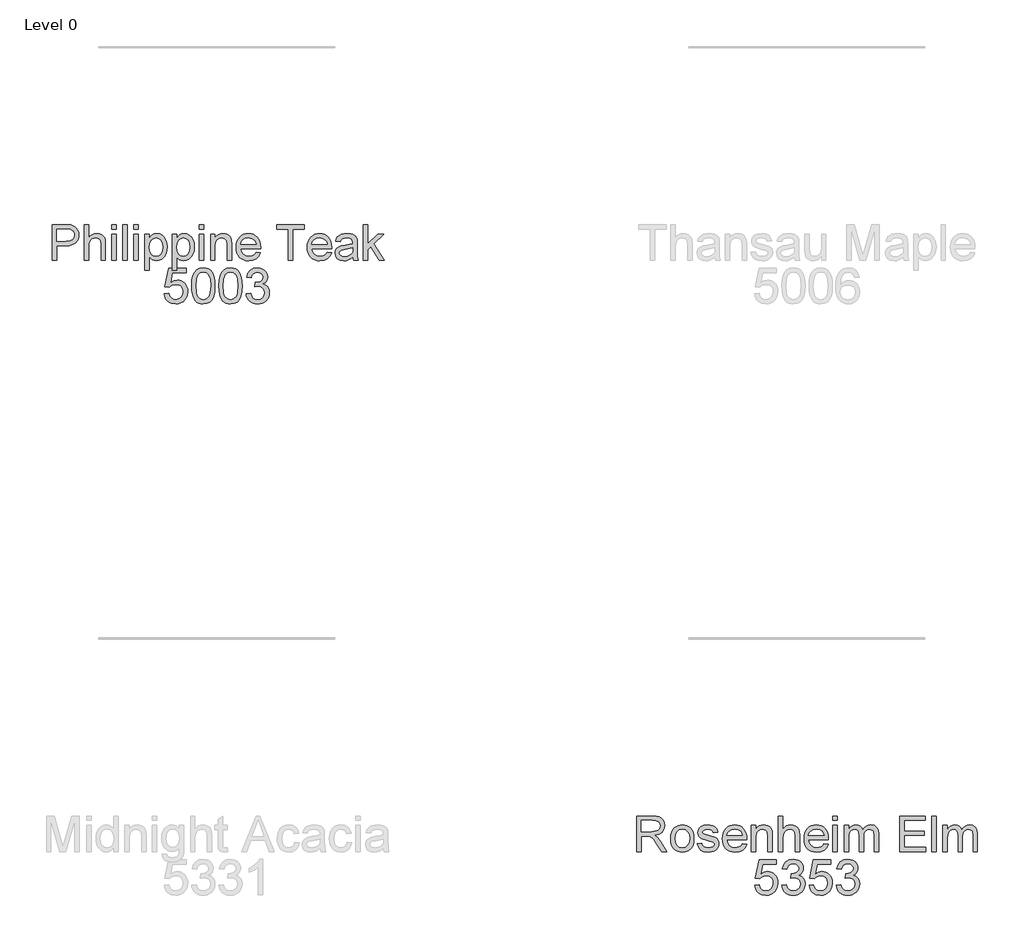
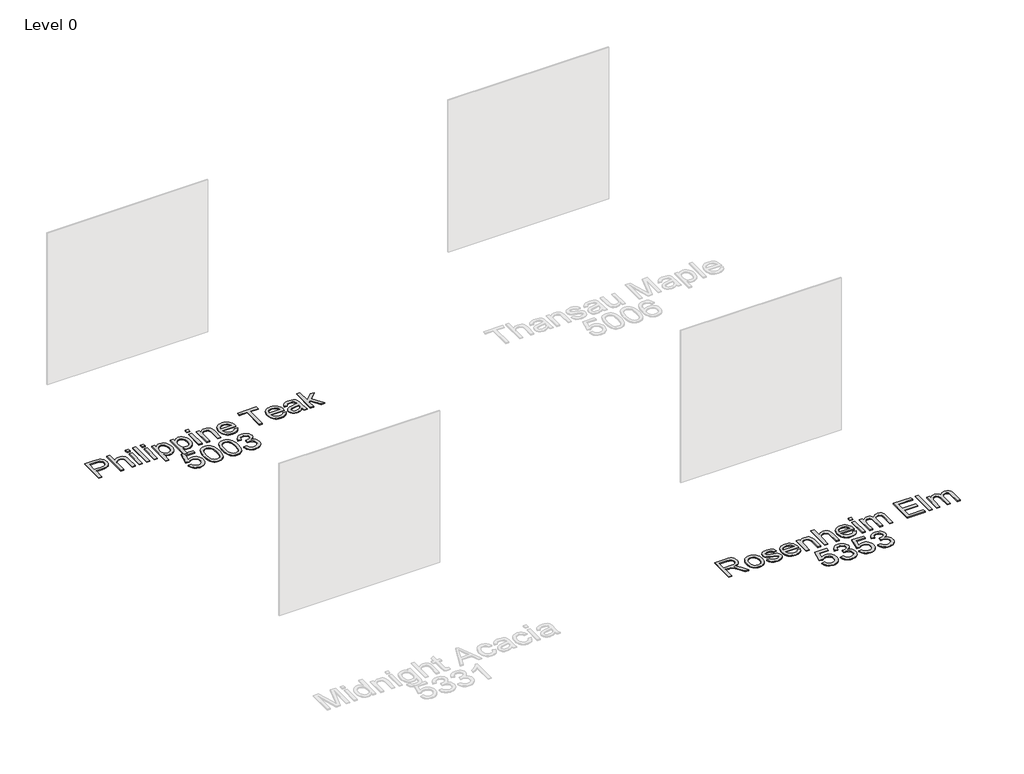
# One storey, part 3 of 16: 2 proxies.
"""IFC4 building model written with IfcOpenShell, lengths in millimetres."""

from ifc_helpers import new_model, si_unit, origin, origin_with_axes, place, context, project, spatial, polyline, outline, extrude, element, save

model = new_model("IFC4")

# Units and contexts
model_context = context("Model", 3, world=origin())
ifc_project = project(units=[si_unit("LENGTHUNIT", "METRE", prefix="MILLI")], contexts=[model_context])

# Site, building, storey
site = spatial("IfcSite", under=ifc_project)
building = spatial("IfcBuilding", under=site)
storey = spatial("IfcBuildingStorey", under=building, Name="Level 0", Elevation=0.0)

# Proxies
placement = place(None, origin())
element("IfcBuildingElementProxy", 1, Name="300mm Arial", ObjectType="300mm Arial", at=placement, inside=storey, context=model_context, shape_type="SweptSolid", body=[
    extrude(outline(polyline([(-10844.4893596, -22012.860494), (-10844.4893596, -21711.4915635), (-10732.8003859, -21711.4915635), (-10687.7716297, -21714.3610431), (-10667.6944698, -21719.7229232), (-10651.1673712, -21728.4509235), (-10637.85924, -21740.9405172), (-10627.4389825, -21757.5871775), (-10620.706742, -21777.222879), (-10618.4626618, -21798.6795964), (-10619.9778758, -21817.1794622), (-10624.5235177, -21834.198603), (-10632.0995875, -21849.7370188), (-10642.7060853, -21863.7947095), (-10657.2673145, -21875.4473717), (-10676.7075787, -21883.7707019), (-10701.0268778, -21888.7647), (-10730.2252119, -21890.429366), (-10806.8182433, -21890.429366), (-10806.8182433, -22012.860494), (-10844.4893596, -22012.860494)]), holes=[polyline([(-10806.8182433, -21852.7582497), (-10728.01792, -21852.7582497), (-10694.6142348, -21849.3001589), (-10672.5413151, -21838.9258867), (-10660.2356623, -21822.2792264), (-10656.1337781, -21800.0039716), (-10658.5526022, -21783.0813998), (-10665.8090746, -21768.8075784), (-10677.0018843, -21758.0654241), (-10691.2297204, -21751.7378538), (-10728.9008367, -21749.1626798), (-10806.8182433, -21749.1626798), (-10806.8182433, -21852.7582497)])]), origin_with_axes(), (0.0, 0.0, 1.0), 10.0),
    extrude(outline(polyline([(-10571.3737664, -22012.860494), (-10571.3737664, -21711.4915635), (-10533.7026501, -21711.4915635), (-10533.7026501, -21822.2976205), (-10519.8656886, -21806.7821973), (-10504.3272728, -21795.6997522), (-10487.0874028, -21789.0502852), (-10468.1460786, -21786.8337961), (-10445.3925772, -21789.2526203), (-10425.8396491, -21796.5090926), (-10410.4437876, -21808.0329961), (-10400.1614859, -21823.2541137), (-10394.3673444, -21844.1682051), (-10392.435964, -21872.7710302), (-10392.435964, -22012.860494), (-10430.1070803, -22012.860494), (-10430.1070803, -21876.6705794), (-10433.1053185, -21853.0893435), (-10442.1000333, -21836.9393239), (-10456.5945839, -21827.6135153), (-10476.0923297, -21824.5049125), (-10492.012423, -21826.6018398), (-10506.9576291, -21832.8926219), (-10519.3368582, -21842.7702535), (-10527.5590208, -21855.6277292), (-10532.1667428, -21872.7158479), (-10533.7026501, -21895.2854083), (-10533.7026501, -22012.860494), (-10571.3737664, -22012.860494)])), origin_with_axes(), (0.0, 0.0, 1.0), 10.0),
    extrude(outline(polyline([(-10340.638179, -21749.1626798), (-10340.638179, -21711.4915635), (-10302.9670627, -21711.4915635), (-10302.9670627, -21749.1626798), (-10340.638179, -21749.1626798)])), origin_with_axes(), (0.0, 0.0, 1.0), 10.0),
    extrude(outline(polyline([(-10340.638179, -22012.860494), (-10340.638179, -21791.5426857), (-10302.9670627, -21791.5426857), (-10302.9670627, -22012.860494), (-10340.638179, -22012.860494)])), origin_with_axes(), (0.0, 0.0, 1.0), 10.0),
    extrude(outline(polyline([(-10246.4603883, -22012.860494), (-10246.4603883, -21711.4915635), (-10208.789272, -21711.4915635), (-10208.789272, -22012.860494), (-10246.4603883, -22012.860494)])), origin_with_axes(), (0.0, 0.0, 1.0), 10.0),
    extrude(outline(polyline([(-10152.2825975, -21749.1626798), (-10152.2825975, -21711.4915635), (-10114.6114812, -21711.4915635), (-10114.6114812, -21749.1626798), (-10152.2825975, -21749.1626798)])), origin_with_axes(), (0.0, 0.0, 1.0), 10.0),
    extrude(outline(polyline([(-10152.2825975, -22012.860494), (-10152.2825975, -21791.5426857), (-10114.6114812, -21791.5426857), (-10114.6114812, -22012.860494), (-10152.2825975, -22012.860494)])), origin_with_axes(), (0.0, 0.0, 1.0), 10.0),
    extrude(outline(polyline([(-10058.1048067, -22097.6205057), (-10058.1048067, -21791.5426857), (-10020.4336904, -21791.5426857), (-10020.4336904, -21828.478038), (-10008.1464318, -21810.2586822), (-9994.3876452, -21797.2448566), (-9978.3479902, -21789.4365613), (-9959.2181264, -21786.8337961), (-9933.7422983, -21790.4758279), (-9911.4670435, -21801.4019232), (-9893.3304611, -21818.9498943), (-9880.2706503, -21842.4575538), (-9872.3795815, -21870.2142504), (-9869.7492252, -21900.5093327), (-9872.7198723, -21932.7265984), (-9881.6318137, -21961.5409557), (-9896.1999407, -21985.4900735), (-9916.1391448, -22003.1116211), (-9939.3616958, -22013.9549429), (-9963.7798632, -22017.5693835), (-9981.0979081, -22015.1505594), (-9996.558149, -22007.894087), (-10009.7927037, -21996.9404006), (-10020.4336904, -21983.4299344), (-10020.4336904, -22097.6205057), (-10058.1048067, -22097.6205057)]), holes=[polyline([(-10020.4336904, -21903.9674234), (-10016.3593973, -21937.7389906), (-10004.1365181, -21961.3570147), (-9986.1011032, -21975.2629541), (-9964.5892036, -21979.8982672), (-9942.727816, -21975.0974072), (-9924.2325487, -21960.6948271), (-9911.6233933, -21936.2122803), (-9907.4203415, -21901.1715202), (-9911.5222258, -21867.5838941), (-9923.8278785, -21843.6347762), (-9941.8357022, -21829.2873784), (-9963.0440992, -21824.5049125), (-9984.3352697, -21829.590881), (-10003.0328721, -21844.8487868), (-10016.0834858, -21869.8003831), (-10020.4336904, -21903.9674234)])]), origin_with_axes(), (0.0, 0.0, 1.0), 10.0),
    extrude(outline(polyline([(-9827.3692194, -22097.6205057), (-9827.3692194, -21791.5426857), (-9789.6981031, -21791.5426857), (-9789.6981031, -21828.478038), (-9777.4108444, -21810.2586822), (-9763.6520578, -21797.2448566), (-9747.6124028, -21789.4365613), (-9728.4825391, -21786.8337961), (-9703.0067109, -21790.4758279), (-9680.7314561, -21801.4019232), (-9662.5948737, -21818.9498943), (-9649.5350629, -21842.4575538), (-9641.6439941, -21870.2142504), (-9639.0136378, -21900.5093327), (-9641.9842849, -21932.7265984), (-9650.8962263, -21961.5409557), (-9665.4643533, -21985.4900735), (-9685.4035574, -22003.1116211), (-9708.6261084, -22013.9549429), (-9733.0442758, -22017.5693835), (-9750.3623207, -22015.1505594), (-9765.8225616, -22007.894087), (-9779.0571164, -21996.9404006), (-9789.6981031, -21983.4299344), (-9789.6981031, -22097.6205057), (-9827.3692194, -22097.6205057)]), holes=[polyline([(-9789.6981031, -21903.9674234), (-9785.62381, -21937.7389906), (-9773.4009307, -21961.3570147), (-9755.3655159, -21975.2629541), (-9733.8536162, -21979.8982672), (-9711.9922286, -21975.0974072), (-9693.4969613, -21960.6948271), (-9680.8878059, -21936.2122803), (-9676.6847541, -21901.1715202), (-9680.7866384, -21867.5838941), (-9693.0922911, -21843.6347762), (-9711.1001148, -21829.2873784), (-9732.3085118, -21824.5049125), (-9753.5996823, -21829.590881), (-9772.2972847, -21844.8487868), (-9785.3478985, -21869.8003831), (-9789.6981031, -21903.9674234)])]), origin_with_axes(), (0.0, 0.0, 1.0), 10.0),
    extrude(outline(polyline([(-9596.633632, -21749.1626798), (-9596.633632, -21711.4915635), (-9558.9625157, -21711.4915635), (-9558.9625157, -21749.1626798), (-9596.633632, -21749.1626798)])), origin_with_axes(), (0.0, 0.0, 1.0), 10.0),
    extrude(outline(polyline([(-9596.633632, -22012.860494), (-9596.633632, -21791.5426857), (-9558.9625157, -21791.5426857), (-9558.9625157, -22012.860494), (-9596.633632, -22012.860494)])), origin_with_axes(), (0.0, 0.0, 1.0), 10.0),
    extrude(outline(polyline([(-9502.4558412, -22012.860494), (-9502.4558412, -21791.5426857), (-9464.7847249, -21791.5426857), (-9464.7847249, -21822.4447733), (-9451.6973229, -21806.8649708), (-9435.9795647, -21795.7365404), (-9417.6314502, -21789.0594822), (-9396.6529794, -21786.8337961), (-9378.0841357, -21788.6272209), (-9361.0787905, -21794.0074951), (-9346.8969396, -21802.303234), (-9336.7985788, -21812.8430532), (-9325.5046015, -21840.5445674), (-9323.5180388, -21876.964885), (-9323.5180388, -22012.860494), (-9361.1891551, -22012.860494), (-9361.1891551, -21882.0416565), (-9365.5301626, -21848.7115477), (-9371.5358362, -21838.7879309), (-9380.8708418, -21831.0900002), (-9392.8362037, -21826.1511844), (-9406.7329461, -21824.5049125), (-9428.7966687, -21828.2021265), (-9447.6046357, -21839.2937687), (-9455.1209248, -21848.3482643), (-9460.4897026, -21860.7228949), (-9464.7847249, -21895.4325611), (-9464.7847249, -22012.860494), (-9502.4558412, -22012.860494)])), origin_with_axes(), (0.0, 0.0, 1.0), 10.0),
    extrude(outline(polyline([(-9116.7683575, -21946.9360404), (-9079.8330052, -21951.64493), (-9093.1411363, -21979.4752029), (-9114.3771245, -22000.2789297), (-9143.0627231, -22013.2467701), (-9178.7196855, -22017.5693835), (-9202.0939877, -22015.7046817), (-9222.9207072, -22010.1105761), (-9241.1998438, -22000.7870668), (-9256.9313976, -21987.7341537), (-9269.5819398, -21971.3151204), (-9278.6180413, -21951.8932503), (-9284.0397022, -21929.4685435), (-9285.8469225, -21904.0409998), (-9284.0213081, -21877.7512327), (-9278.5444649, -21854.5792656), (-9269.4163929, -21834.5250983), (-9256.6370921, -21817.5887309), (-9240.946925, -21804.133447), (-9223.0862541, -21794.5225298), (-9203.0550795, -21788.7559796), (-9180.853401, -21786.8337961), (-9159.3667933, -21788.751381), (-9139.9357261, -21794.5041357), (-9122.5601996, -21804.0920602), (-9107.2402138, -21817.5151545), (-9094.7345252, -21834.4147337), (-9085.8018905, -21854.4321128), (-9080.4423097, -21877.5672917), (-9078.6557828, -21903.8202706), (-9078.876512, -21913.9738137), (-9248.1758062, -21913.9738137), (-9241.6550978, -21942.1719686), (-9226.5075566, -21962.902119), (-9204.6461691, -21975.6492302), (-9177.9839215, -21979.8982672), (-9157.9343527, -21977.9300985), (-9141.0485692, -21972.0255925), (-9127.3265707, -21961.8168672), (-9116.7683575, -21946.9360404)]), holes=[polyline([(-9248.1758062, -21876.3026974), (-9116.3268991, -21876.3026974), (-9121.4220647, -21856.4002814), (-9131.4100609, -21842.1632482), (-9153.372616, -21828.9194964), (-9181.0005538, -21824.5049125), (-9206.3936086, -21828.0273826), (-9227.3904734, -21838.5947929), (-9241.9861916, -21855.0667092), (-9248.1758062, -21876.3026974)])]), origin_with_axes(), (0.0, 0.0, 1.0), 10.0),
    extrude(outline(polyline([(-8843.2113059, -22012.860494), (-8843.2113059, -21749.1626798), (-8942.0979862, -21749.1626798), (-8942.0979862, -21711.4915635), (-8706.6535093, -21711.4915635), (-8706.6535093, -21749.1626798), (-8805.5401896, -21749.1626798), (-8805.5401896, -22012.860494), (-8843.2113059, -22012.860494)])), origin_with_axes(), (0.0, 0.0, 1.0), 10.0),
    extrude(outline(polyline([(-8514.0304966, -21946.9360404), (-8477.0951443, -21951.64493), (-8490.4032754, -21979.4752029), (-8511.6392636, -22000.2789297), (-8540.3248622, -22013.2467701), (-8575.9818246, -22017.5693835), (-8599.3561268, -22015.7046817), (-8620.1828463, -22010.1105761), (-8638.4619829, -22000.7870668), (-8654.1935367, -21987.7341537), (-8666.8440789, -21971.3151204), (-8675.8801804, -21951.8932503), (-8681.3018413, -21929.4685435), (-8683.1090616, -21904.0409998), (-8681.2834472, -21877.7512327), (-8675.806604, -21854.5792656), (-8666.678532, -21834.5250983), (-8653.8992312, -21817.5887309), (-8638.2090641, -21804.133447), (-8620.3483932, -21794.5225298), (-8600.3172186, -21788.7559796), (-8578.1155401, -21786.8337961), (-8556.6289324, -21788.751381), (-8537.1978652, -21794.5041357), (-8519.8223387, -21804.0920602), (-8504.5023529, -21817.5151545), (-8491.9966643, -21834.4147337), (-8483.0640296, -21854.4321128), (-8477.7044488, -21877.5672917), (-8475.9179219, -21903.8202706), (-8476.1386511, -21913.9738137), (-8645.4379453, -21913.9738137), (-8638.9172369, -21942.1719686), (-8623.7696957, -21962.902119), (-8601.9083082, -21975.6492302), (-8575.2460606, -21979.8982672), (-8555.1964918, -21977.9300985), (-8538.3107083, -21972.0255925), (-8524.5887098, -21961.8168672), (-8514.0304966, -21946.9360404)]), holes=[polyline([(-8645.4379453, -21876.3026974), (-8513.5890382, -21876.3026974), (-8518.6842038, -21856.4002814), (-8528.6722, -21842.1632482), (-8550.6347551, -21828.9194964), (-8578.2626929, -21824.5049125), (-8603.6557477, -21828.0273826), (-8624.6526125, -21838.5947929), (-8639.2483307, -21855.0667092), (-8645.4379453, -21876.3026974)])]), origin_with_axes(), (0.0, 0.0, 1.0), 10.0),
    extrude(outline(polyline([(-8296.9801194, -21984.6071568), (-8314.978746, -22000.0398064), (-8333.5108016, -22010.1381672), (-8352.9993502, -22015.7115794), (-8373.8674564, -22017.5693835), (-8405.3489582, -22013.0996173), (-8428.5715091, -21999.6903186), (-8442.8913158, -21979.3280501), (-8447.6645847, -21953.9993748), (-8445.8619629, -21938.3827841), (-8440.4540976, -21924.2009331), (-8432.1123733, -21912.0608273), (-8421.5081748, -21902.5694718), (-8395.1310357, -21890.2086368), (-8362.536691, -21884.5432541), (-8324.0194461, -21878.5835657), (-8297.2008486, -21871.5938078), (-8296.9801194, -21863.2060983), (-8299.5736875, -21846.3938912), (-8307.3543917, -21835.3942195), (-8324.7552101, -21827.2272392), (-8348.9986336, -21824.5049125), (-8371.4394353, -21826.3167313), (-8387.1112083, -21831.7521878), (-8397.7981802, -21841.8045633), (-8405.2845788, -21857.4671392), (-8442.9556951, -21852.7582497), (-8436.4165927, -21832.156858), (-8426.6585227, -21815.9700502), (-8412.7709774, -21803.590821), (-8393.8434488, -21794.4121652), (-8370.6944742, -21788.7283884), (-8344.1425912, -21786.8337961), (-8318.6759601, -21788.5076592), (-8298.4884356, -21793.5292485), (-8283.2673181, -21801.0800264), (-8272.6999078, -21810.3414556), (-8265.6917557, -21821.7917827), (-8261.1484131, -21835.9092543), (-8259.3090031, -21868.8714811), (-8259.3090031, -21915.7396473), (-8257.3960168, -21981.1858542), (-8249.8912241, -22012.860494), (-8287.5623404, -22012.860494), (-8296.9801194, -21984.6071568)]), holes=[polyline([(-8296.9801194, -21909.2649241), (-8357.754225, -21920.8164188), (-8390.1646288, -21926.9232599), (-8404.8431204, -21936.8560738), (-8409.9934684, -21951.3506244), (-8407.1883681, -21962.5526311), (-8398.7730675, -21971.7312869), (-8384.9315074, -21977.8565221), (-8365.8476289, -21979.8982672), (-8345.6141192, -21977.64499), (-8327.7350542, -21970.8851583), (-8313.2405036, -21960.9247533), (-8303.160537, -21949.069756), (-8298.6907707, -21936.8560738), (-8297.2008486, -21919.933502), (-8296.9801194, -21909.2649241)])]), origin_with_axes(), (0.0, 0.0, 1.0), 10.0),
    extrude(outline(polyline([(-8207.5112182, -22012.860494), (-8207.5112182, -21711.4915635), (-8169.8401019, -21711.4915635), (-8169.8401019, -21873.4332178), (-8085.3743958, -21791.5426857), (-8033.2823053, -21791.5426857), (-8118.778081, -21874.4632874), (-8028.5734158, -22012.860494), (-8072.5721024, -22012.860494), (-8145.7806194, -21900.6564855), (-8169.8401019, -21923.9802039), (-8169.8401019, -22012.860494), (-8207.5112182, -22012.860494)])), origin_with_axes(), (0.0, 0.0, 1.0), 10.0),
    extrude(outline(polyline([(-9893.2936729, -22298.7338254), (-9855.6225566, -22294.0249358), (-9848.7063751, -22316.6404815), (-9836.6398456, -22332.8364863), (-9819.4781506, -22342.5761621), (-9797.2764722, -22345.8227207), (-9770.2739337, -22341.3069693), (-9750.040424, -22327.7597148), (-9737.4036774, -22306.7444558), (-9733.1914286, -22279.8246908), (-9737.136963, -22254.4776213), (-9748.9735662, -22235.0902402), (-9768.7932087, -22222.7845875), (-9796.687861, -22218.6827032), (-9814.9623991, -22220.3197781), (-9829.7604523, -22225.2310027), (-9850.9136671, -22242.2271509), (-9888.5847834, -22237.5182614), (-9855.6225566, -22082.1249066), (-9709.6469809, -22082.1249066), (-9709.6469809, -22119.7960229), (-9825.1619274, -22119.7960229), (-9841.2751588, -22202.790201), (-9814.3645908, -22186.4562404), (-9786.1664359, -22181.0115869), (-9767.8206207, -22182.6992456), (-9750.969326, -22187.7622215), (-9735.612552, -22196.2005148), (-9721.7502986, -22208.0141254), (-9710.2746796, -22222.4810848), (-9702.0778089, -22238.8794248), (-9697.1596864, -22257.2091452), (-9695.5203123, -22277.470246), (-9701.4248183, -22315.1413624), (-9708.8054508, -22331.9351754), (-9719.1383364, -22347.3678251), (-9734.7917153, -22363.1729553), (-9753.0570563, -22374.4623341), (-9773.9343596, -22381.2359613), (-9797.423625, -22383.4938371), (-9834.4233566, -22377.6904986), (-9850.1020274, -22370.4363255), (-9863.8999015, -22360.2804832), (-9875.380119, -22347.7288093), (-9884.1058201, -22333.2871418), (-9893.2936729, -22298.7338254)])), origin_with_axes(), (0.0, 0.0, 1.0), 10.0),
    extrude(outline(polyline([(-9662.5580855, -22230.5285035), (-9659.7897735, -22182.2899768), (-9651.4848375, -22143.8187172), (-9637.7260509, -22114.5261133), (-9618.5961871, -22093.8235541), (-9593.9572905, -22081.5179013), (-9563.6714052, -22077.4160171), (-9540.4580513, -22079.8440382), (-9519.6727186, -22087.1281017), (-9502.2902943, -22098.983099), (-9489.2856658, -22115.1239216), (-9479.4632165, -22135.4126136), (-9471.62733, -22159.7112194), (-9466.4953762, -22190.5673217), (-9464.7847249, -22230.5285035), (-9467.5254458, -22278.4911186), (-9475.7476084, -22316.8704077), (-9489.4236215, -22346.1906027), (-9508.5258941, -22366.9759355), (-9533.2199731, -22379.3643617), (-9563.6714052, -22383.4938371), (-9584.4199498, -22381.7004123), (-9602.8140495, -22376.3201381), (-9618.8537045, -22367.3530145), (-9632.5389147, -22354.7990414), (-9645.672302, -22332.1053209), (-9655.0532928, -22303.828991), (-9660.6818874, -22269.9700519), (-9662.5580855, -22230.5285035)]), holes=[polyline([(-9624.8869692, -22230.4549271), (-9620.4723853, -22289.7115194), (-9614.9541554, -22309.9795181), (-9607.2286335, -22324.0073184), (-9587.5101585, -22340.3688702), (-9563.6714052, -22345.8227207), (-9539.8326519, -22340.3504761), (-9520.114177, -22323.933742), (-9512.3886551, -22309.8829491), (-9506.8704252, -22289.6195489), (-9502.4558412, -22230.4549271), (-9506.7232724, -22172.5319069), (-9512.0575613, -22152.3305869), (-9519.5255658, -22137.9693935), (-9539.2072525, -22120.8076984), (-9564.1128636, -22115.0871334), (-9587.6940995, -22120.1271167), (-9606.6400223, -22135.2470667), (-9614.6230616, -22150.8820515), (-9620.3252325, -22171.9616898), (-9624.8869692, -22230.4549271)])]), origin_with_axes(), (0.0, 0.0, 1.0), 10.0),
    extrude(outline(polyline([(-9431.8224982, -22230.5285035), (-9429.0541861, -22182.2899768), (-9420.7492501, -22143.8187172), (-9406.9904635, -22114.5261133), (-9387.8605997, -22093.8235541), (-9363.2217031, -22081.5179013), (-9332.9358179, -22077.4160171), (-9309.722464, -22079.8440382), (-9288.9371312, -22087.1281017), (-9271.554707, -22098.983099), (-9258.5500784, -22115.1239216), (-9248.7276292, -22135.4126136), (-9240.8917427, -22159.7112194), (-9235.7597888, -22190.5673217), (-9234.0491375, -22230.5285035), (-9236.7898584, -22278.4911186), (-9245.012021, -22316.8704077), (-9258.6880342, -22346.1906027), (-9277.7903068, -22366.9759355), (-9302.4843857, -22379.3643617), (-9332.9358179, -22383.4938371), (-9353.6843624, -22381.7004123), (-9372.0784621, -22376.3201381), (-9388.1181171, -22367.3530145), (-9401.8033273, -22354.7990414), (-9414.9367146, -22332.1053209), (-9424.3177055, -22303.828991), (-9429.9463, -22269.9700519), (-9431.8224982, -22230.5285035)]), holes=[polyline([(-9394.1513818, -22230.4549271), (-9389.7367979, -22289.7115194), (-9384.218568, -22309.9795181), (-9376.4930461, -22324.0073184), (-9356.7745711, -22340.3688702), (-9332.9358179, -22345.8227207), (-9309.0970646, -22340.3504761), (-9289.3785896, -22323.933742), (-9281.6530677, -22309.8829491), (-9276.1348378, -22289.6195489), (-9271.7202539, -22230.4549271), (-9275.987685, -22172.5319069), (-9281.3219739, -22152.3305869), (-9288.7899784, -22137.9693935), (-9308.4716652, -22120.8076984), (-9333.3772762, -22115.0871334), (-9356.9585121, -22120.1271167), (-9375.9044349, -22135.2470667), (-9383.8874742, -22150.8820515), (-9389.5896451, -22171.9616898), (-9394.1513818, -22230.4549271)])]), origin_with_axes(), (0.0, 0.0, 1.0), 10.0),
    extrude(outline(polyline([(-9201.0869108, -22298.7338254), (-9163.4157945, -22294.0249358), (-9154.9820997, -22317.6981422), (-9142.6304617, -22333.6826149), (-9125.7538752, -22342.7876943), (-9103.7453349, -22345.8227207), (-9077.9200188, -22341.6472601), (-9057.9808147, -22329.1208782), (-9045.2337035, -22310.4324728), (-9040.9846665, -22287.7709419), (-9045.1969153, -22266.2590422), (-9057.8336619, -22248.8122386), (-9076.9635256, -22237.2515469), (-9100.6551261, -22233.397983), (-9127.0690533, -22237.5182614), (-9122.8751986, -22199.8471451), (-9116.8419339, -22200.2886035), (-9094.2723735, -22197.5846708), (-9074.094046, -22189.4728728), (-9059.8570128, -22175.7508744), (-9055.1113351, -22156.2163404), (-9058.5510317, -22139.9467592), (-9068.8701217, -22126.7489926), (-9084.6154711, -22118.0025982), (-9104.333946, -22115.0871334), (-9124.0892092, -22118.0301893), (-9140.2392288, -22126.8593572), (-9152.0298467, -22141.574637), (-9158.7069049, -22162.1760288), (-9196.3780212, -22157.4671392), (-9185.2863791, -22123.6403898), (-9165.54951, -22098.3852908), (-9138.5469716, -22082.6583355), (-9105.6583212, -22077.4160171), (-9081.9759178, -22080.0003881), (-9060.2248948, -22087.7535011), (-9041.8859774, -22099.9855775), (-9028.4398904, -22116.0068384), (-9020.1901367, -22134.4653175), (-9017.4402188, -22154.0090485), (-9020.052181, -22172.2192072), (-9027.8880675, -22188.7371088), (-9040.8375137, -22202.8085951), (-9058.790155, -22213.6795081), (-9035.2089192, -22223.2076518), (-9017.7345244, -22239.4312477), (-9006.9187937, -22261.4673793), (-9003.3135502, -22288.4331295), (-9005.1161719, -22307.5445992), (-9010.5240373, -22325.1477526), (-9019.5371462, -22341.2425899), (-9032.1554986, -22355.829111), (-9047.5283675, -22367.9324287), (-9064.8050257, -22376.5776555), (-9083.9854732, -22381.7647917), (-9105.06971, -22383.4938371), (-9124.1259974, -22382.0177105), (-9141.4900276, -22377.589331), (-9157.1618006, -22370.2086985), (-9171.1413164, -22359.875813), (-9182.8629564, -22347.1976797), (-9191.7611022, -22332.781304), (-9197.8357536, -22316.6266859), (-9201.0869108, -22298.7338254)])), origin_with_axes(), (0.0, 0.0, 1.0), 10.0),
])
element("IfcBuildingElementProxy", 2, Name="300mm Arial", ObjectType="300mm Arial", at=placement, inside=storey, context=model_context, shape_type="SweptSolid", body=[
    extrude(outline(polyline([(-5891.578255, -27022.860494), (-5891.578255, -26721.4915635), (-5761.7159107, -26721.4915635), (-5726.8131064, -26723.5241116), (-5701.4200517, -26729.6217556), (-5682.8604051, -26740.8789447), (-5668.4578249, -26758.3901276), (-5659.2147898, -26780.1043624), (-5656.1337781, -26803.9707069), (-5661.2381408, -26833.6587839), (-5676.5512288, -26858.2700893), (-5688.151008, -26868.2994722), (-5702.5328947, -26876.3147012), (-5739.642991, -26886.3026974), (-5718.2322589, -26902.4159288), (-5687.6980533, -26941.1906911), (-5637.4453727, -27022.860494), (-5681.2233302, -27022.860494), (-5720.4395509, -26960.3941312), (-5748.7664645, -26919.0441949), (-5768.6688804, -26899.509661), (-5786.5847336, -26892.3359621), (-5808.4369241, -26891.0115869), (-5853.9071387, -26891.0115869), (-5853.9071387, -27022.860494), (-5891.578255, -27022.860494)]), holes=[polyline([(-5853.9071387, -26853.3404706), (-5769.5885854, -26853.3404706), (-5745.3727531, -26852.0068984), (-5726.5831802, -26848.0061817), (-5712.4381175, -26841.0716061), (-5702.1558157, -26830.9364571), (-5695.8926247, -26818.6767896), (-5693.8048944, -26805.3686584), (-5697.787217, -26786.9929528), (-5709.7341848, -26772.1857025), (-5730.2895913, -26762.4184355), (-5760.0972299, -26759.1626798), (-5853.9071387, -26759.1626798), (-5853.9071387, -26853.3404706)])]), origin_with_axes(), (0.0, 0.0, 1.0), 10.0),
    extrude(outline(polyline([(-5604.3359932, -26912.2015898), (-5602.2988466, -26883.5389839), (-5596.187407, -26858.8403064), (-5586.0016742, -26838.1055575), (-5571.7416484, -26821.334737), (-5557.3850535, -26810.6155754), (-5541.5385366, -26802.9590314), (-5524.2020976, -26798.3651049), (-5505.3757365, -26796.8337961), (-5484.592703, -26798.698498), (-5465.8008308, -26804.2926036), (-5449.00012, -26813.6161129), (-5434.1905704, -26826.669026), (-5422.1033476, -26843.0098843), (-5413.469617, -26862.1972296), (-5408.2893787, -26884.2310619), (-5406.5626326, -26909.1113811), (-5409.6160531, -26947.1687735), (-5418.7763148, -26976.1394806), (-5433.7767032, -26997.8353213), (-5454.3505037, -27014.0681143), (-5478.7870653, -27024.1940662), (-5505.3757365, -27027.5693835), (-5526.4622726, -27025.7115794), (-5545.4288887, -27020.1381672), (-5562.2755848, -27010.8491468), (-5577.0023609, -26997.8445183), (-5588.960825, -26981.3450108), (-5597.5025851, -26961.5713536), (-5602.6276412, -26938.5235466), (-5604.3359932, -26912.2015898)]), holes=[polyline([(-5566.6648769, -26912.1280134), (-5562.3054752, -26946.2214773), (-5549.2272703, -26970.5108861), (-5529.5455836, -26985.0514219), (-5505.3757365, -26989.8982672), (-5481.316254, -26985.0238308), (-5461.6713555, -26970.4005215), (-5448.5931505, -26945.789216), (-5444.2337489, -26910.950791), (-5448.6207417, -26877.8506085), (-5461.7817201, -26853.8922936), (-5481.4542097, -26839.3517577), (-5505.3757365, -26834.5049125), (-5529.5455836, -26839.3333636), (-5549.2272703, -26853.8187172), (-5562.3054752, -26878.0529436), (-5566.6648769, -26912.1280134)])]), origin_with_axes(), (0.0, 0.0, 1.0), 10.0),
    extrude(outline(polyline([(-5378.3092953, -26956.9360404), (-5340.638179, -26952.2271509), (-5334.6968848, -26968.3403823), (-5323.2005725, -26980.1861825), (-5306.0756656, -26987.470246), (-5283.2485878, -26989.8982672), (-5260.6974215, -26987.6725811), (-5244.8417075, -26980.9955229), (-5235.4607166, -26971.3202265), (-5232.3337197, -26960.0998256), (-5235.4791107, -26950.4981055), (-5244.9152839, -26943.1772538), (-5283.6900462, -26932.4350996), (-5340.4174498, -26914.0042116), (-5354.7740447, -26904.7427824), (-5365.1759081, -26892.4831149), (-5371.4942814, -26878.0069584), (-5373.6004058, -26862.0960621), (-5371.9081486, -26847.5003439), (-5366.8313771, -26834.0266659), (-5358.8299437, -26822.2084568), (-5348.3637009, -26812.5791455), (-5324.4145831, -26801.4323211), (-5292.0041793, -26796.8337961), (-5267.4848443, -26798.6824032), (-5246.1660827, -26804.2282242), (-5229.0227817, -26812.9286334), (-5217.0298287, -26824.2410048), (-5209.0835776, -26839.0022698), (-5204.0803824, -26858.0493601), (-5241.7514987, -26862.7582497), (-5246.5063735, -26850.9032524), (-5255.9149555, -26841.972917), (-5270.0692153, -26836.3719136), (-5289.0611233, -26834.5049125), (-5310.6925846, -26836.2891401), (-5325.1135588, -26841.6418232), (-5333.2253568, -26849.3673451), (-5335.9292895, -26858.2700893), (-5331.4411292, -26869.2329728), (-5317.3880369, -26877.5471059), (-5284.940845, -26885.5669334), (-5229.6481811, -26903.2988455), (-5215.0432659, -26911.7785255), (-5203.9700178, -26923.3852025), (-5196.989457, -26938.1556646), (-5194.6626034, -26956.1267001), (-5197.3941272, -26974.7047408), (-5205.5886986, -26992.1791356), (-5218.933618, -27007.1795239), (-5237.1161856, -27018.3355454), (-5259.0787407, -27025.260924), (-5283.7636226, -27027.5693835), (-5321.7474386, -27023.1180114), (-5349.4673469, -27009.763895), (-5367.9718113, -26987.654187), (-5378.3092953, -26956.9360404)])), origin_with_axes(), (0.0, 0.0, 1.0), 10.0),
    extrude(outline(polyline([(-4997.3307011, -26956.9360404), (-4960.3953488, -26961.64493), (-4973.70348, -26989.4752029), (-4994.9394682, -27010.2789297), (-5023.6250667, -27023.2467701), (-5059.2820291, -27027.5693835), (-5082.6563314, -27025.7046817), (-5103.4830508, -27020.1105761), (-5121.7621875, -27010.7870668), (-5137.4937413, -26997.7341537), (-5150.1442834, -26981.3151204), (-5159.1803849, -26961.8932503), (-5164.6020458, -26939.4685435), (-5166.4092661, -26914.0409998), (-5164.5836517, -26887.7512327), (-5159.1068085, -26864.5792656), (-5149.9787365, -26844.5250983), (-5137.1994357, -26827.5887309), (-5121.5092686, -26814.133447), (-5103.6485977, -26804.5225298), (-5083.6174231, -26798.7559796), (-5061.4157447, -26796.8337961), (-5039.9291369, -26798.751381), (-5020.4980698, -26804.5041357), (-5003.1225433, -26814.0920602), (-4987.8025575, -26827.5151545), (-4975.2968689, -26844.4147337), (-4966.3642342, -26864.4321128), (-4961.0046534, -26887.5672917), (-4959.2181264, -26913.8202706), (-4959.4388556, -26923.9738137), (-5128.7381498, -26923.9738137), (-5122.2174415, -26952.1719686), (-5107.0699003, -26972.902119), (-5085.2085127, -26985.6492302), (-5058.5462651, -26989.8982672), (-5038.4966964, -26987.9300985), (-5021.6109128, -26982.0255925), (-5007.8889144, -26971.8168672), (-4997.3307011, -26956.9360404)]), holes=[polyline([(-5128.7381498, -26886.3026974), (-4996.8892427, -26886.3026974), (-5001.9844084, -26866.4002814), (-5011.9724045, -26852.1632482), (-5033.9349597, -26838.9194964), (-5061.5628975, -26834.5049125), (-5086.9559522, -26838.0273826), (-5107.9528171, -26848.5947929), (-5122.5485352, -26865.0667092), (-5128.7381498, -26886.3026974)])]), origin_with_axes(), (0.0, 0.0, 1.0), 10.0),
    extrude(outline(polyline([(-4921.5470101, -27022.860494), (-4921.5470101, -26801.5426857), (-4883.8758938, -26801.5426857), (-4883.8758938, -26832.4447733), (-4870.7884918, -26816.8649708), (-4855.0707336, -26805.7365404), (-4836.7226191, -26799.0594822), (-4815.7441483, -26796.8337961), (-4797.1753046, -26798.6272209), (-4780.1699594, -26804.0074951), (-4765.9881085, -26812.303234), (-4755.8897477, -26822.8430532), (-4744.5957705, -26850.5445674), (-4742.6092077, -26886.964885), (-4742.6092077, -27022.860494), (-4780.280324, -27022.860494), (-4780.280324, -26892.0416565), (-4784.6213315, -26858.7115477), (-4790.6270051, -26848.7879309), (-4799.9620107, -26841.0900002), (-4811.9273726, -26836.1511844), (-4825.824115, -26834.5049125), (-4847.8878376, -26838.2021265), (-4866.6958047, -26849.2937687), (-4874.2120937, -26858.3482643), (-4879.5808715, -26870.7228949), (-4883.8758938, -26905.4325611), (-4883.8758938, -27022.860494), (-4921.5470101, -27022.860494)])), origin_with_axes(), (0.0, 0.0, 1.0), 10.0),
    extrude(outline(polyline([(-4690.8114228, -27022.860494), (-4690.8114228, -26721.4915635), (-4653.1403065, -26721.4915635), (-4653.1403065, -26832.2976205), (-4639.3033449, -26816.7821973), (-4623.7649291, -26805.6997522), (-4606.5250591, -26799.0502852), (-4587.5837349, -26796.8337961), (-4564.8302335, -26799.2526203), (-4545.2773055, -26806.5090926), (-4529.881444, -26818.0329961), (-4519.5991422, -26833.2541137), (-4513.8050008, -26854.1682051), (-4511.8736203, -26882.7710302), (-4511.8736203, -27022.860494), (-4549.5447366, -27022.860494), (-4549.5447366, -26886.6705794), (-4552.5429749, -26863.0893435), (-4561.5376897, -26846.9393239), (-4576.0322403, -26837.6135153), (-4595.529986, -26834.5049125), (-4611.4500793, -26836.6018398), (-4626.3952854, -26842.8926219), (-4638.7745145, -26852.7702535), (-4646.9966771, -26865.6277292), (-4651.6043991, -26882.7158479), (-4653.1403065, -26905.2854083), (-4653.1403065, -27022.860494), (-4690.8114228, -27022.860494)])), origin_with_axes(), (0.0, 0.0, 1.0), 10.0),
    extrude(outline(polyline([(-4305.123939, -26956.9360404), (-4268.1885867, -26961.64493), (-4281.4967179, -26989.4752029), (-4302.732706, -27010.2789297), (-4331.4183046, -27023.2467701), (-4367.075267, -27027.5693835), (-4390.4495693, -27025.7046817), (-4411.2762887, -27020.1105761), (-4429.5554254, -27010.7870668), (-4445.2869792, -26997.7341537), (-4457.9375213, -26981.3151204), (-4466.9736228, -26961.8932503), (-4472.3952837, -26939.4685435), (-4474.202504, -26914.0409998), (-4472.3768896, -26887.7512327), (-4466.9000464, -26864.5792656), (-4457.7719744, -26844.5250983), (-4444.9926736, -26827.5887309), (-4429.3025065, -26814.133447), (-4411.4418356, -26804.5225298), (-4391.410661, -26798.7559796), (-4369.2089826, -26796.8337961), (-4347.7223748, -26798.751381), (-4328.2913077, -26804.5041357), (-4310.9157812, -26814.0920602), (-4295.5957953, -26827.5151545), (-4283.0901068, -26844.4147337), (-4274.1574721, -26864.4321128), (-4268.7978913, -26887.5672917), (-4267.0113643, -26913.8202706), (-4267.2320935, -26923.9738137), (-4436.5313877, -26923.9738137), (-4430.0106793, -26952.1719686), (-4414.8631382, -26972.902119), (-4393.0017506, -26985.6492302), (-4366.339503, -26989.8982672), (-4346.2899343, -26987.9300985), (-4329.4041507, -26982.0255925), (-4315.6821523, -26971.8168672), (-4305.123939, -26956.9360404)]), holes=[polyline([(-4436.5313877, -26886.3026974), (-4304.6824806, -26886.3026974), (-4309.7776463, -26866.4002814), (-4319.7656424, -26852.1632482), (-4341.7281975, -26838.9194964), (-4369.3561354, -26834.5049125), (-4394.7491901, -26838.0273826), (-4415.746055, -26848.5947929), (-4430.3417731, -26865.0667092), (-4436.5313877, -26886.3026974)])]), origin_with_axes(), (0.0, 0.0, 1.0), 10.0),
    extrude(outline(polyline([(-4229.340248, -26759.1626798), (-4229.340248, -26721.4915635), (-4191.6691317, -26721.4915635), (-4191.6691317, -26759.1626798), (-4229.340248, -26759.1626798)])), origin_with_axes(), (0.0, 0.0, 1.0), 10.0),
    extrude(outline(polyline([(-4229.340248, -27022.860494), (-4229.340248, -26801.5426857), (-4191.6691317, -26801.5426857), (-4191.6691317, -27022.860494), (-4229.340248, -27022.860494)])), origin_with_axes(), (0.0, 0.0, 1.0), 10.0),
    extrude(outline(polyline([(-4135.1624572, -27022.860494), (-4135.1624572, -26801.5426857), (-4097.4913409, -26801.5426857), (-4097.4913409, -26837.9630032), (-4086.1605755, -26821.2335695), (-4071.5924485, -26808.1277734), (-4054.2836006, -26799.6572905), (-4034.7306726, -26796.8337961), (-4013.7797929, -26799.7124728), (-3996.9859799, -26808.3485026), (-3984.4412038, -26822.1716686), (-3976.2374353, -26840.6117536), (-3962.5062399, -26821.4588972), (-3946.8436639, -26807.7782855), (-3929.2497075, -26799.5699185), (-3909.7243706, -26796.8337961), (-3881.406654, -26801.3863358), (-3860.4649714, -26815.0439549), (-3847.5247223, -26838.1745354), (-3843.2113059, -26871.1459592), (-3843.2113059, -27022.860494), (-3880.8824222, -27022.860494), (-3880.8824222, -26887.332767), (-3884.3773011, -26855.8788564), (-3889.2885258, -26847.2060383), (-3897.0324418, -26840.3910244), (-3906.9928468, -26835.9764404), (-3918.5535385, -26834.5049125), (-3938.9617922, -26838.2757029), (-3955.5992554, -26849.5880743), (-3966.6633064, -26869.2145787), (-3970.3513234, -26897.9277684), (-3970.3513234, -27022.860494), (-4008.0224397, -27022.860494), (-4008.0224397, -26883.1389122), (-4010.2021405, -26861.8385447), (-4016.741243, -26846.6450183), (-4028.2467524, -26837.5399389), (-4045.325674, -26834.5049125), (-4059.8386187, -26836.5282634), (-4073.2111293, -26842.5983163), (-4084.2475891, -26852.5679184), (-4091.7523818, -26866.2899168), (-4096.0566012, -26885.3278101), (-4097.4913409, -26911.2450966), (-4097.4913409, -27022.860494), (-4135.1624572, -27022.860494)])), origin_with_axes(), (0.0, 0.0, 1.0), 10.0),
    extrude(outline(polyline([(-3664.2735034, -27022.860494), (-3664.2735034, -26721.4915635), (-3447.6645847, -26721.4915635), (-3447.6645847, -26759.1626798), (-3626.6023871, -26759.1626798), (-3626.6023871, -26848.6315811), (-3457.0823637, -26848.6315811), (-3457.0823637, -26886.3026974), (-3626.6023871, -26886.3026974), (-3626.6023871, -26985.1893777), (-3442.9556951, -26985.1893777), (-3442.9556951, -27022.860494), (-3664.2735034, -27022.860494)])), origin_with_axes(), (0.0, 0.0, 1.0), 10.0),
    extrude(outline(polyline([(-3391.1579102, -27022.860494), (-3391.1579102, -26721.4915635), (-3353.4867939, -26721.4915635), (-3353.4867939, -27022.860494), (-3391.1579102, -27022.860494)])), origin_with_axes(), (0.0, 0.0, 1.0), 10.0),
    extrude(outline(polyline([(-3296.9801194, -27022.860494), (-3296.9801194, -26801.5426857), (-3259.3090031, -26801.5426857), (-3259.3090031, -26837.9630032), (-3247.9782377, -26821.2335695), (-3233.4101107, -26808.1277734), (-3216.1012628, -26799.6572905), (-3196.5483347, -26796.8337961), (-3175.5974551, -26799.7124728), (-3158.803642, -26808.3485026), (-3146.258866, -26822.1716686), (-3138.0550975, -26840.6117536), (-3124.323902, -26821.4588972), (-3108.6613261, -26807.7782855), (-3091.0673697, -26799.5699185), (-3071.5420328, -26796.8337961), (-3043.2243162, -26801.3863358), (-3022.2826336, -26815.0439549), (-3009.3423845, -26838.1745354), (-3005.0289681, -26871.1459592), (-3005.0289681, -27022.860494), (-3042.7000844, -27022.860494), (-3042.7000844, -26887.332767), (-3046.1949633, -26855.8788564), (-3051.106188, -26847.2060383), (-3058.850104, -26840.3910244), (-3068.810509, -26835.9764404), (-3080.3712007, -26834.5049125), (-3100.7794544, -26838.2757029), (-3117.4169176, -26849.5880743), (-3128.4809686, -26869.2145787), (-3132.1689856, -26897.9277684), (-3132.1689856, -27022.860494), (-3169.8401019, -27022.860494), (-3169.8401019, -26883.1389122), (-3172.0198027, -26861.8385447), (-3178.5589052, -26846.6450183), (-3190.0644146, -26837.5399389), (-3207.1433362, -26834.5049125), (-3221.6562809, -26836.5282634), (-3235.0287914, -26842.5983163), (-3246.0652513, -26852.5679184), (-3253.570044, -26866.2899168), (-3257.8742633, -26885.3278101), (-3259.3090031, -26911.2450966), (-3259.3090031, -27022.860494), (-3296.9801194, -27022.860494)])), origin_with_axes(), (0.0, 0.0, 1.0), 10.0),
    extrude(outline(polyline([(-4893.2936729, -27308.7338254), (-4855.6225566, -27304.0249358), (-4848.7063751, -27326.6404815), (-4836.6398456, -27342.8364863), (-4819.4781506, -27352.5761621), (-4797.2764722, -27355.8227207), (-4770.2739337, -27351.3069693), (-4750.040424, -27337.7597148), (-4737.4036774, -27316.7444558), (-4733.1914286, -27289.8246908), (-4737.136963, -27264.4776213), (-4748.9735662, -27245.0902402), (-4768.7932087, -27232.7845875), (-4796.687861, -27228.6827032), (-4814.9623991, -27230.3197781), (-4829.7604523, -27235.2310027), (-4850.9136671, -27252.2271509), (-4888.5847834, -27247.5182614), (-4855.6225566, -27092.1249066), (-4709.6469809, -27092.1249066), (-4709.6469809, -27129.7960229), (-4825.1619274, -27129.7960229), (-4841.2751588, -27212.790201), (-4814.3645908, -27196.4562404), (-4786.1664359, -27191.0115869), (-4767.8206207, -27192.6992456), (-4750.969326, -27197.7622215), (-4735.612552, -27206.2005148), (-4721.7502986, -27218.0141254), (-4710.2746796, -27232.4810848), (-4702.0778089, -27248.8794248), (-4697.1596864, -27267.2091452), (-4695.5203123, -27287.470246), (-4701.4248183, -27325.1413624), (-4708.8054508, -27341.9351754), (-4719.1383364, -27357.3678251), (-4734.7917153, -27373.1729553), (-4753.0570563, -27384.4623341), (-4773.9343596, -27391.2359613), (-4797.423625, -27393.4938371), (-4834.4233566, -27387.6904986), (-4850.1020274, -27380.4363255), (-4863.8999015, -27370.2804832), (-4875.380119, -27357.7288093), (-4884.1058201, -27343.2871418), (-4893.2936729, -27308.7338254)])), origin_with_axes(), (0.0, 0.0, 1.0), 10.0),
    extrude(outline(polyline([(-4662.5580855, -27308.7338254), (-4624.8869692, -27304.0249358), (-4616.4532745, -27327.6981422), (-4604.1016365, -27343.6826149), (-4587.22505, -27352.7876943), (-4565.2165096, -27355.8227207), (-4539.3911935, -27351.6472601), (-4519.4519894, -27339.1208782), (-4506.7048783, -27320.4324728), (-4502.4558412, -27297.7709419), (-4506.6680901, -27276.2590422), (-4519.3048366, -27258.8122386), (-4538.4347004, -27247.2515469), (-4562.1263008, -27243.397983), (-4588.5402281, -27247.5182614), (-4584.3463734, -27209.8471451), (-4578.3131086, -27210.2886035), (-4555.7435482, -27207.5846708), (-4535.5652208, -27199.4728728), (-4521.3281876, -27185.7508744), (-4516.5825098, -27166.2163404), (-4520.0222065, -27149.9467592), (-4530.3412965, -27136.7489926), (-4546.0866459, -27128.0025982), (-4565.8051208, -27125.0871334), (-4585.5603839, -27128.0301893), (-4601.7104035, -27136.8593572), (-4613.5010215, -27151.574637), (-4620.1780797, -27172.1760288), (-4657.849196, -27167.4671392), (-4646.7575538, -27133.6403898), (-4627.0206848, -27108.3852908), (-4600.0181463, -27092.6583355), (-4567.129496, -27087.4160171), (-4543.4470925, -27090.0003881), (-4521.6960696, -27097.7535011), (-4503.3571521, -27109.9855775), (-4489.9110652, -27126.0068384), (-4481.6613115, -27144.4653175), (-4478.9113935, -27164.0090485), (-4481.5233557, -27182.2192072), (-4489.3592422, -27198.7371088), (-4502.3086884, -27212.8085951), (-4520.2613298, -27223.6795081), (-4496.6800939, -27233.2076518), (-4479.2056991, -27249.4312477), (-4468.3899685, -27271.4673793), (-4464.7847249, -27298.4331295), (-4466.5873467, -27317.5445992), (-4471.995212, -27335.1477526), (-4481.0083209, -27351.2425899), (-4493.6266733, -27365.829111), (-4508.9995422, -27377.9324287), (-4526.2762004, -27386.5776555), (-4545.4566479, -27391.7647917), (-4566.5408848, -27393.4938371), (-4585.5971721, -27392.0177105), (-4602.9612023, -27387.589331), (-4618.6329753, -27380.2086985), (-4632.6124911, -27369.875813), (-4644.3341312, -27357.1976797), (-4653.232277, -27342.781304), (-4659.3069284, -27326.6266859), (-4662.5580855, -27308.7338254)])), origin_with_axes(), (0.0, 0.0, 1.0), 10.0),
    extrude(outline(polyline([(-4431.8224982, -27308.7338254), (-4394.1513818, -27304.0249358), (-4387.2352003, -27326.6404815), (-4375.1686709, -27342.8364863), (-4358.0069758, -27352.5761621), (-4335.8052974, -27355.8227207), (-4308.802759, -27351.3069693), (-4288.5692492, -27337.7597148), (-4275.9325027, -27316.7444558), (-4271.7202539, -27289.8246908), (-4275.6657883, -27264.4776213), (-4287.5023914, -27245.0902402), (-4307.3220339, -27232.7845875), (-4335.2166862, -27228.6827032), (-4353.4912243, -27230.3197781), (-4368.2892776, -27235.2310027), (-4389.4424923, -27252.2271509), (-4427.1136086, -27247.5182614), (-4394.1513818, -27092.1249066), (-4248.1758062, -27092.1249066), (-4248.1758062, -27129.7960229), (-4363.6907526, -27129.7960229), (-4379.803984, -27212.790201), (-4352.8934161, -27196.4562404), (-4324.6952612, -27191.0115869), (-4306.3494459, -27192.6992456), (-4289.4981513, -27197.7622215), (-4274.1413772, -27206.2005148), (-4260.2791238, -27218.0141254), (-4248.8035048, -27232.4810848), (-4240.6066341, -27248.8794248), (-4235.6885117, -27267.2091452), (-4234.0491375, -27287.470246), (-4239.9536436, -27325.1413624), (-4247.3342761, -27341.9351754), (-4257.6671616, -27357.3678251), (-4273.3205405, -27373.1729553), (-4291.5858816, -27384.4623341), (-4312.4631848, -27391.2359613), (-4335.9524502, -27393.4938371), (-4372.9521819, -27387.6904986), (-4388.6308527, -27380.4363255), (-4402.4287267, -27370.2804832), (-4413.9089443, -27357.7288093), (-4422.6346453, -27343.2871418), (-4431.8224982, -27308.7338254)])), origin_with_axes(), (0.0, 0.0, 1.0), 10.0),
    extrude(outline(polyline([(-4201.0869108, -27308.7338254), (-4163.4157945, -27304.0249358), (-4154.9820997, -27327.6981422), (-4142.6304617, -27343.6826149), (-4125.7538752, -27352.7876943), (-4103.7453349, -27355.8227207), (-4077.9200188, -27351.6472601), (-4057.9808147, -27339.1208782), (-4045.2337035, -27320.4324728), (-4040.9846665, -27297.7709419), (-4045.1969153, -27276.2590422), (-4057.8336619, -27258.8122386), (-4076.9635256, -27247.2515469), (-4100.6551261, -27243.397983), (-4127.0690533, -27247.5182614), (-4122.8751986, -27209.8471451), (-4116.8419339, -27210.2886035), (-4094.2723735, -27207.5846708), (-4074.094046, -27199.4728728), (-4059.8570128, -27185.7508744), (-4055.1113351, -27166.2163404), (-4058.5510317, -27149.9467592), (-4068.8701217, -27136.7489926), (-4084.6154711, -27128.0025982), (-4104.333946, -27125.0871334), (-4124.0892092, -27128.0301893), (-4140.2392288, -27136.8593572), (-4152.0298467, -27151.574637), (-4158.7069049, -27172.1760288), (-4196.3780212, -27167.4671392), (-4185.2863791, -27133.6403898), (-4165.54951, -27108.3852908), (-4138.5469716, -27092.6583355), (-4105.6583212, -27087.4160171), (-4081.9759178, -27090.0003881), (-4060.2248948, -27097.7535011), (-4041.8859774, -27109.9855775), (-4028.4398904, -27126.0068384), (-4020.1901367, -27144.4653175), (-4017.4402188, -27164.0090485), (-4020.052181, -27182.2192072), (-4027.8880675, -27198.7371088), (-4040.8375137, -27212.8085951), (-4058.790155, -27223.6795081), (-4035.2089192, -27233.2076518), (-4017.7345244, -27249.4312477), (-4006.9187937, -27271.4673793), (-4003.3135502, -27298.4331295), (-4005.1161719, -27317.5445992), (-4010.5240373, -27335.1477526), (-4019.5371462, -27351.2425899), (-4032.1554986, -27365.829111), (-4047.5283675, -27377.9324287), (-4064.8050257, -27386.5776555), (-4083.9854732, -27391.7647917), (-4105.06971, -27393.4938371), (-4124.1259974, -27392.0177105), (-4141.4900276, -27387.589331), (-4157.1618006, -27380.2086985), (-4171.1413164, -27369.875813), (-4182.8629564, -27357.1976797), (-4191.7611022, -27342.781304), (-4197.8357536, -27326.6266859), (-4201.0869108, -27308.7338254)])), origin_with_axes(), (0.0, 0.0, 1.0), 10.0),
])

save(model, "model.ifc")
